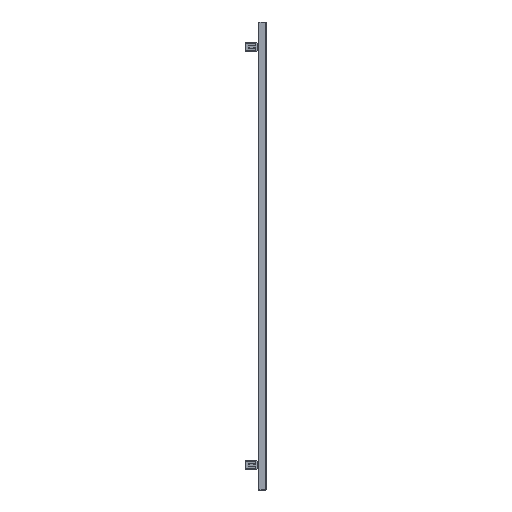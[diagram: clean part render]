
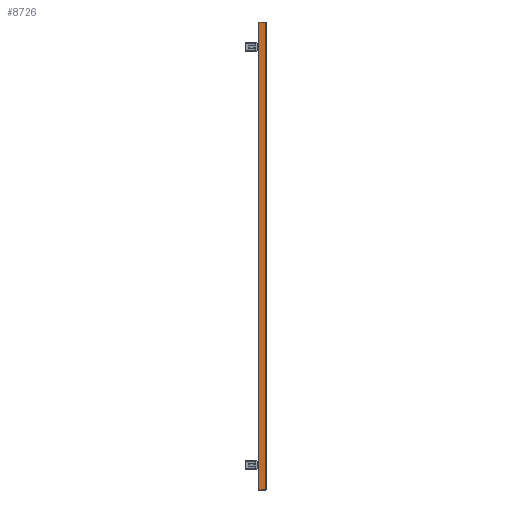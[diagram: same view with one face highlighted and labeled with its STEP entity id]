
A CAD part, left-side view. The second image highlights one B-rep face of the part: STEP entity #8726.
In plain terms, the highlighted planar face has unit normal (-1, 0, 0).
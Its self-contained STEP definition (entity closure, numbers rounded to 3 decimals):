
#8687=CARTESIAN_POINT('',(-225.0,-15.,0.0));
#8688=DIRECTION('',(-1.0,0.0,0.0));
#8689=DIRECTION('',(0.0,0.0,1.0));
#8690=AXIS2_PLACEMENT_3D('',#8687,#8688,#8689);
#8691=PLANE('',#8690);
#8692=CARTESIAN_POINT('',(-225.0,12.,1678.5));
#8693=VERTEX_POINT('',#8692);
#8694=CARTESIAN_POINT('',(-225.0,-12.,1678.5));
#8695=VERTEX_POINT('',#8694);
#8696=CARTESIAN_POINT('',(-225.0,12.,1678.5));
#8697=DIRECTION('',(0.0,-1.0,0.0));
#8698=VECTOR('',#8697,24.0);
#8699=LINE('',#8696,#8698);
#8700=EDGE_CURVE('',#8693,#8695,#8699,.T.);
#8701=ORIENTED_EDGE('',*,*,#8700,.F.);
#8702=CARTESIAN_POINT('',(-225.0,12.,1.5));
#8703=VERTEX_POINT('',#8702);
#8704=CARTESIAN_POINT('',(-225.0,12.,1.5));
#8705=DIRECTION('',(0.0,0.0,1.0));
#8706=VECTOR('',#8705,1677.0);
#8707=LINE('',#8704,#8706);
#8708=EDGE_CURVE('',#8703,#8693,#8707,.T.);
#8709=ORIENTED_EDGE('',*,*,#8708,.F.);
#8710=CARTESIAN_POINT('',(-225.0,-12.,1.5));
#8711=VERTEX_POINT('',#8710);
#8712=CARTESIAN_POINT('',(-225.0,-12.,1.5));
#8713=DIRECTION('',(0.0,1.0,0.0));
#8714=VECTOR('',#8713,24.0);
#8715=LINE('',#8712,#8714);
#8716=EDGE_CURVE('',#8711,#8703,#8715,.T.);
#8717=ORIENTED_EDGE('',*,*,#8716,.F.);
#8718=CARTESIAN_POINT('',(-225.0,-12.,1678.5));
#8719=DIRECTION('',(0.0,0.0,-1.0));
#8720=VECTOR('',#8719,1677.0);
#8721=LINE('',#8718,#8720);
#8722=EDGE_CURVE('',#8695,#8711,#8721,.T.);
#8723=ORIENTED_EDGE('',*,*,#8722,.F.);
#8724=EDGE_LOOP('',(#8701,#8709,#8717,#8723));
#8725=FACE_OUTER_BOUND('',#8724,.T.);
#8726=ADVANCED_FACE('',(#8725),#8691,.T.);
